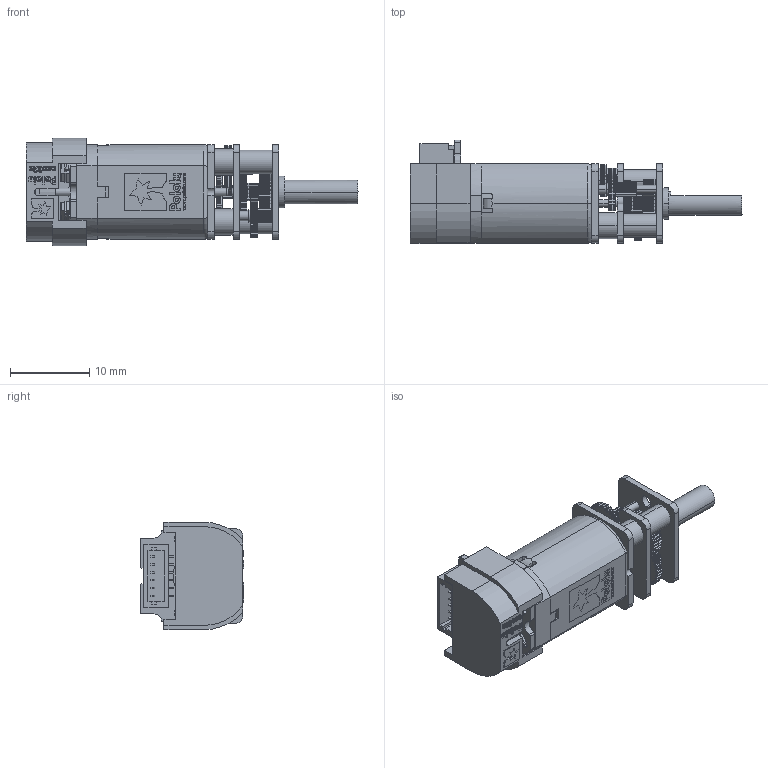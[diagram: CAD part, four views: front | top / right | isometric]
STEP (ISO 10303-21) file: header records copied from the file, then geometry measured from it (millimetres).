
FILE_DESCRIPTION (( 'STEP AP214' ), '1' );
FILE_NAME ('customer_step_mmgm_cb_cas02_enc03c_3.STEP', '2024-04-24T00:12:43', ( '' ), ( '' ), 'SwSTEP 2.0', 'SolidWorks 2023', '' );
FILE_SCHEMA (( 'AUTOMOTIVE_DESIGN' ));
Length unit declared in the file: millimetre
Products named in the file (1): customer_step_mmgm_cb_cas02_enc03c_3
Bounding box: 42 x 13.1 x 13.6 mm (x, y, z)
Volume: 2768.4 mm3; surface area: 3328.8 mm2
Topology: 1 solids, 1 shells, 2787 faces, 8264 edges, 5561 vertices
Faces by surface type: cylinder 1295, plane 1055, bspline 421, torus 10, cone 6
Entity records: 144212 total; most frequent: CARTESIAN_POINT 48218, ORIENTED_EDGE 16528, DIRECTION 9345, EDGE_CURVE 8264, VERTEX_POINT 5561, B_SPLINE_CURVE_WITH_KNOTS 4663, AXIS2_PLACEMENT_3D 3405, EDGE_LOOP 2935
